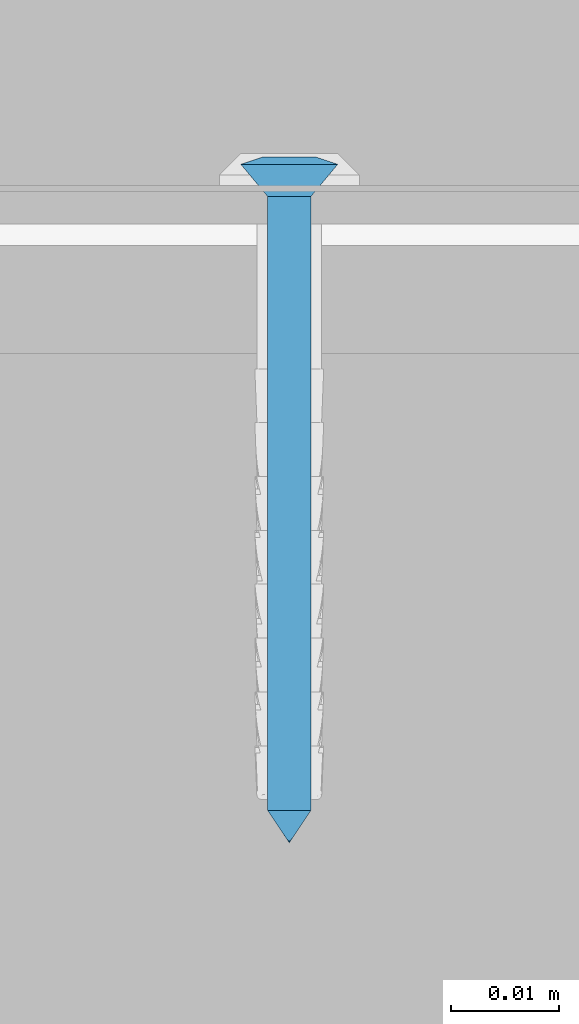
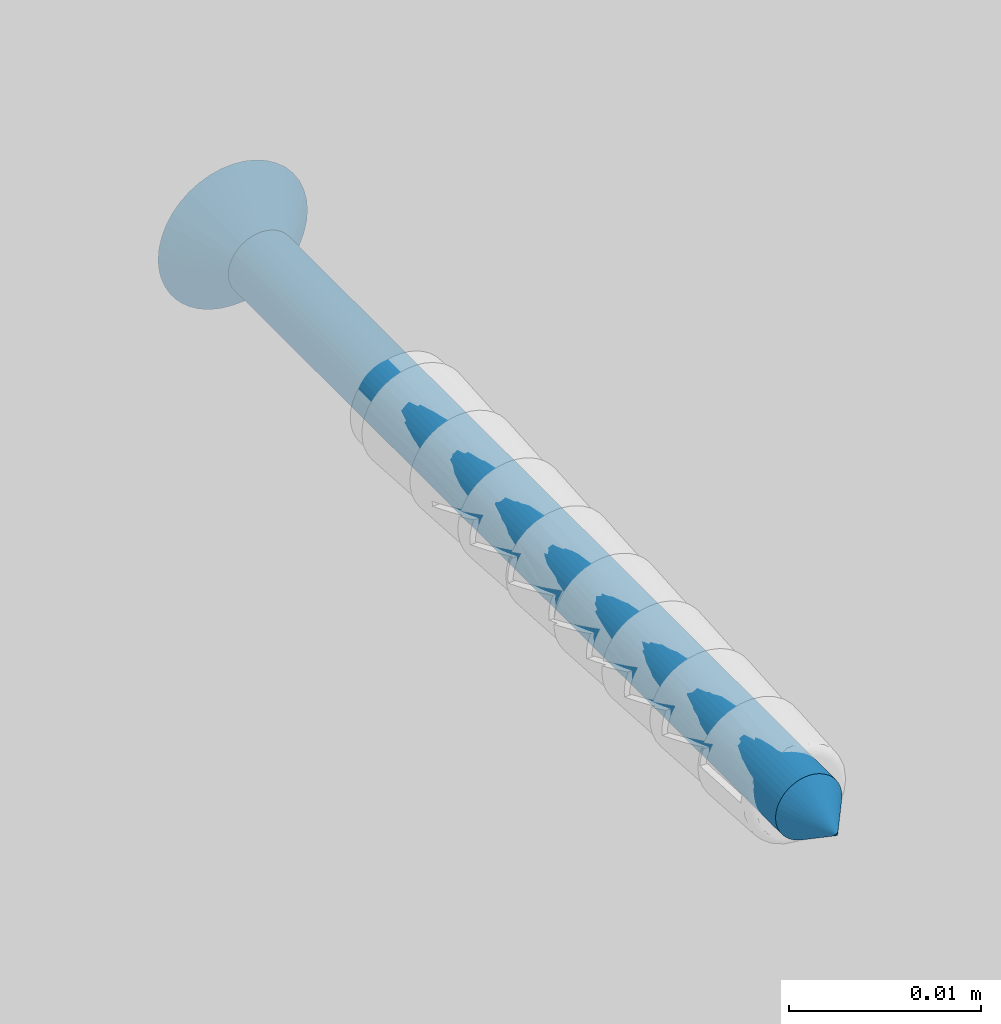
# One storey, part 20 of 92: 1 wall.
"""IFC2X3 building model written with IfcOpenShell, lengths in millimetres."""

from ifc_helpers import new_model, si_unit, frame, origin_with_axes, place, context, subcontext, project, spatial, faceted_brep, material, type_object, element, save


model = new_model("IFC2X3")

# Units and contexts
model_context = context("Model", 3, world=origin_with_axes())
body_context = subcontext(model_context, "Body", "Model", "MODEL_VIEW")
ifc_project = project(units=[si_unit("LENGTHUNIT", "METRE", prefix="MILLI"), si_unit("AREAUNIT", "SQUARE_METRE"), si_unit("VOLUMEUNIT", "CUBIC_METRE")], contexts=[model_context])

# Site, building, storey
site_placement = place(None, origin_with_axes())
site = spatial("IfcSite", under=ifc_project, at=site_placement, Name="Default Site", CompositionType="ELEMENT")
building_placement = place(site_placement, origin_with_axes())
building = spatial("IfcBuilding", under=site, at=building_placement, Name="Default Building", CompositionType="ELEMENT")
storey_placement = place(building_placement, origin_with_axes())
storey = spatial("IfcBuildingStorey", under=building, at=storey_placement, Name="Default Building Storey", CompositionType="ELEMENT", Elevation=0.0)

# Wall
ifc_material = material(Name="Default")
wall_type = type_object("IfcWallType", Name="Kołek rozporowy min. fi 6", PredefinedType="NOTDEFINED")
wall_placement = place(storey_placement, frame((3527.8498144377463, 118.01549176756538, 2546.231090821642), z_axis=(-1.89380159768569e-13, 1.0, 3.3306690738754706e-16), x_axis=(1.9030997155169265e-13, -3.3306690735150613e-16, 1.0)))
element("IfcWall", 1, at=wall_placement, inside=storey, type_object=wall_type, material=ifc_material, Name="Kołek rozporowy min. fi 6", context=body_context, shape_type="Brep", body=[
    faceted_brep([(-1438.2587671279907, -3452.579259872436, -0.46425670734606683), (-1435.7895851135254, -3452.970266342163, -3.464256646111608), (-1435.8141422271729, -3453.2833099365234, -3.464256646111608), (-1438.3141994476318, -3453.2833099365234, -0.46425670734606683), (-1438.093900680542, -3451.892614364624, -0.46425670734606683), (-1435.7162714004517, -3452.6650905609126, -3.464256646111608), (-1437.8236532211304, -3451.240301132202, -0.46425670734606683), (-1435.5961084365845, -3452.3751735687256, -3.464256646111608), (-1437.4547004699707, -3450.6382942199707, -0.46425670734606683), (-1435.4321956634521, -3452.107667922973, -3.464256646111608), (-1436.9961023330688, -3450.101137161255, -0.46425670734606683), (-1435.22834777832, -3451.8690109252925, -3.464256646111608), (-1436.4591836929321, -3449.642658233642, -0.46425670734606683), (-1434.9896907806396, -3451.665163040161, -3.464256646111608), (-1435.8570575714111, -3449.2735862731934, -0.46425670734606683), (-1434.7221851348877, -3451.501131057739, -3.464256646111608), (-1435.2047443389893, -3449.0034580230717, -0.46425670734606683), (-1434.4321489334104, -3451.381206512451, -3.464256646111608), (-1434.5180988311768, -3448.838710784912, -0.46425670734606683), (-1434.1269731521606, -3451.307773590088, -3.464256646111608), (-1433.8141679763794, -3448.7831592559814, -0.46425670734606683), (-1433.8141679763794, -3451.28321647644, -3.464256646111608), (-1433.110237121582, -3448.838710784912, -0.46425670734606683), (-1433.5012435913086, -3451.307773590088, -3.464256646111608), (-1432.4235916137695, -3449.0034580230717, -0.46425670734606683), (-1433.1960678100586, -3451.381206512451, -3.464256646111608), (-1431.771159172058, -3449.2735862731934, -0.46425670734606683), (-1432.9061508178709, -3451.501131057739, -3.464256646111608), (-1431.1691522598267, -3449.642658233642, -0.46425670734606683), (-1432.6385259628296, -3451.665163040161, -3.464256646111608), (-1430.6321144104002, -3450.101137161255, -0.46425670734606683), (-1432.3999881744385, -3451.8690109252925, -3.464256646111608), (-1430.1735162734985, -3450.6382942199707, -0.46425670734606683), (-1432.1961402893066, -3452.107667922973, -3.464256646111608), (-1429.8045635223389, -3451.240301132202, -0.46425670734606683), (-1432.0321083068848, -3452.3751735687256, -3.464256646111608), (-1429.5344352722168, -3451.892614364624, -0.46425670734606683), (-1431.9120645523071, -3452.6650905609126, -3.464256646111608), (-1431.814193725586, -3453.2833099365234, -3.464256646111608), (-1429.314136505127, -3453.2833099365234, -0.46425670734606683), (-1429.369568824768, -3453.9871215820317, -0.46425670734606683), (-1431.8387508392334, -3453.5961151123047, -3.464256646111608), (-1431.8387508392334, -3452.970266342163, -3.464256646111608), (-1429.369568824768, -3452.579259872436, -0.46425670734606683), (-1429.5344352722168, -3454.6737670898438, -0.46425670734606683), (-1431.9120645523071, -3453.9012908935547, -3.464256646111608), (-1429.8045635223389, -3455.3260803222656, -0.46425670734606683), (-1432.0321083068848, -3454.191207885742, -3.464256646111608), (-1430.1735162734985, -3455.9283256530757, -0.46425670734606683), (-1432.1961402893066, -3454.458713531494, -3.464256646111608), (-1430.6321144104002, -3456.465244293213, -0.46425670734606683), (-1432.3999881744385, -3454.6973705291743, -3.464256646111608), (-1431.1691522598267, -3456.923723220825, -0.46425670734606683), (-1432.6385259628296, -3454.9012184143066, -3.464256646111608), (-1431.771159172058, -3457.2927951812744, -0.46425670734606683), (-1432.9061508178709, -3455.065250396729, -3.464256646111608), (-1432.4235916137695, -3457.562923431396, -0.46425670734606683), (-1433.1960678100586, -3455.1854133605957, -3.464256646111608), (-1433.110237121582, -3457.7279090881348, -0.46425670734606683), (-1433.5012435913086, -3455.25860786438, -3.464256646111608), (-1433.8141679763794, -3457.7832221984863, -0.46425670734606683), (-1433.8141679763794, -3455.283164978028, -3.464256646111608), (-1434.1269731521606, -3455.25860786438, -3.464256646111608), (-1434.3430995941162, -3457.7519893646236, -0.46425670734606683), (-1434.4321489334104, -3455.1854133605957, -3.464256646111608), (-1434.8646402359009, -3457.6590061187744, -0.46425670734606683), (-1435.3716373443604, -3457.504987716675, -0.46425670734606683), (-1434.7221851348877, -3455.065250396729, -3.464256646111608), (-1435.8570575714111, -3457.2927951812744, -0.46425670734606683), (-1436.3142251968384, -3457.024812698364, -0.46425670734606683), (-1435.22834777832, -3454.6973705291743, -3.464256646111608), (-1434.9896907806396, -3454.9012184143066, -3.464256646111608), (-1436.7367029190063, -3456.705093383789, -0.46425670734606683), (-1437.118649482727, -3456.337928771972, -0.46425670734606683), (-1435.4321956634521, -3454.458713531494, -3.464256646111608), (-1437.4547004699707, -3455.9283256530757, -0.46425670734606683), (-1437.8236532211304, -3455.3260803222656, -0.46425670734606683), (-1435.5961084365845, -3454.191207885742, -3.464256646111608), (-1438.093900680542, -3454.6737670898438, -0.46425670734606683), (-1435.7162714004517, -3453.9012908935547, -3.464256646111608), (-1438.2587671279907, -3453.9871215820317, -0.46425670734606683), (-1435.7895851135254, -3453.5961151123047, -3.464256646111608), (-1433.8141679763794, -3455.7831287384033, 0.20073754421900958), (-1434.2052936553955, -3455.752372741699, 0.20073754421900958), (-1434.5866441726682, -3455.6608200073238, 0.20073754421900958), (-1434.9491596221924, -3455.510854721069, 0.20073754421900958), (-1435.2836608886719, -3455.305814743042, 0.20073754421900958), (-1435.581922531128, -3455.0509452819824, 0.20073754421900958), (-1435.836672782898, -3454.7526836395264, 0.20073754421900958), (-1436.0417127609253, -3454.418182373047, 0.20073754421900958), (-1436.1917972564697, -3454.0557861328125, 0.20073754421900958), (-1436.2833499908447, -3453.6743164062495, 0.20073754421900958), (-1436.3141059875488, -3453.2833099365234, 0.20073754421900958), (-1436.2833499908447, -3452.8920650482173, 0.20073754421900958), (-1436.1917972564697, -3452.5105953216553, 0.20073754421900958), (-1436.0417127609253, -3452.148199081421, 0.20073754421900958), (-1435.836672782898, -3451.8136978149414, 0.20073754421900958), (-1435.581922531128, -3451.5154361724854, 0.20073754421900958), (-1435.2836608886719, -3451.260566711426, 0.20073754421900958), (-1434.9491596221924, -3451.0557651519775, 0.20073754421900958), (-1434.5866441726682, -3450.905561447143, 0.20073754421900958), (-1433.8141679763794, -3450.7832527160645, 0.20073754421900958), (-1433.4230422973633, -3450.8140087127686, 0.20073754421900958), (-1434.2052936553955, -3450.8140087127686, 0.20073754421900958), (-1433.0415725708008, -3450.905561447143, 0.20073754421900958), (-1432.6791763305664, -3451.0557651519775, 0.20073754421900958), (-1432.344675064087, -3451.260566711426, 0.20073754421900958), (-1432.0464134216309, -3451.5154361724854, 0.20073754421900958), (-1431.7916631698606, -3451.8136978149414, 0.20073754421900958), (-1431.5866231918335, -3452.148199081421, 0.20073754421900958), (-1431.436538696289, -3452.5105953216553, 0.20073754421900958), (-1431.344985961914, -3452.8920650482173, 0.20073754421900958), (-1431.3141107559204, -3453.2833099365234, 0.20073754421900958), (-1431.344985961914, -3453.6743164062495, 0.20073754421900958), (-1431.436538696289, -3454.0557861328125, 0.20073754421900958), (-1431.5866231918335, -3454.418182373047, 0.20073754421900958), (-1431.7916631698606, -3454.7526836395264, 0.20073754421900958), (-1432.0464134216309, -3455.0509452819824, 0.20073754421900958), (-1432.344675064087, -3455.305814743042, 0.20073754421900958), (-1432.6791763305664, -3455.510854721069, 0.20073754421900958), (-1433.0415725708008, -3455.6608200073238, 0.20073754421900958), (-1433.4230422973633, -3455.752372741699, 0.20073754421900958), (-1435.8141422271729, -3453.2833099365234, -60.464255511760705), (-1435.7895851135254, -3452.970266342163, -60.464255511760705), (-1433.8141679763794, -3453.2833099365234, -63.46425414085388), (-1435.7162714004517, -3452.6650905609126, -60.464255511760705), (-1435.5961084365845, -3452.3751735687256, -60.464255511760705), (-1435.4321956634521, -3452.107667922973, -60.464255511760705), (-1435.22834777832, -3451.8690109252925, -60.464255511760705), (-1434.9896907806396, -3451.665163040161, -60.464255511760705), (-1434.7221851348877, -3451.501131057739, -60.464255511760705), (-1434.4321489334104, -3451.381206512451, -60.464255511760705), (-1434.1269731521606, -3451.307773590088, -60.464255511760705), (-1433.8141679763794, -3451.28321647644, -60.464255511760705), (-1433.5012435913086, -3451.307773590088, -60.464255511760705), (-1433.1960678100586, -3451.381206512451, -60.464255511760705), (-1432.9061508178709, -3451.501131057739, -60.464255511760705), (-1432.6385259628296, -3451.665163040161, -60.464255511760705), (-1432.3999881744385, -3451.8690109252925, -60.464255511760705), (-1432.1961402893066, -3452.107667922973, -60.464255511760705), (-1432.0321083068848, -3452.3751735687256, -60.464255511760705), (-1431.9120645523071, -3452.6650905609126, -60.464255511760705), (-1431.8387508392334, -3452.970266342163, -60.464255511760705), (-1431.814193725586, -3453.2833099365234, -60.464255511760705), (-1431.8387508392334, -3453.5961151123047, -60.464255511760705), (-1431.9120645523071, -3453.9012908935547, -60.464255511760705), (-1432.0321083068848, -3454.191207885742, -60.464255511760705), (-1432.1961402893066, -3454.458713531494, -60.464255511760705), (-1432.3999881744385, -3454.6973705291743, -60.464255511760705), (-1432.6385259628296, -3454.9012184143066, -60.464255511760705), (-1432.9061508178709, -3455.065250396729, -60.464255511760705), (-1433.1960678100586, -3455.1854133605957, -60.464255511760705), (-1433.5012435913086, -3455.25860786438, -60.464255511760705), (-1433.8141679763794, -3455.283164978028, -60.464255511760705), (-1434.1269731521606, -3455.25860786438, -60.464255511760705), (-1434.4321489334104, -3455.1854133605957, -60.464255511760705), (-1434.7221851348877, -3455.065250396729, -60.464255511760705), (-1434.9896907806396, -3454.9012184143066, -60.464255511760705), (-1435.22834777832, -3454.6973705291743, -60.464255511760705), (-1435.4321956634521, -3454.458713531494, -60.464255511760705), (-1435.5961084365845, -3454.191207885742, -60.464255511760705), (-1435.7162714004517, -3453.9012908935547, -60.464255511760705), (-1435.7895851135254, -3453.5961151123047, -60.464255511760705), (-1436.1917972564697, -3454.0557861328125, 0.049999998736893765), (-1436.0417127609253, -3454.418182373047, 0.049999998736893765), (-1435.836672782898, -3454.7526836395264, 0.049999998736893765), (-1435.581922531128, -3455.0509452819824, 0.049999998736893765), (-1435.2836608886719, -3455.305814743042, 0.049999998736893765), (-1434.9491596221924, -3455.510854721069, 0.049999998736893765), (-1434.5866441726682, -3455.6608200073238, 0.049999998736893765), (-1434.2052936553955, -3455.752372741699, 0.049999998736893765), (-1433.8141679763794, -3455.7831287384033, 0.049999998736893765), (-1433.4230422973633, -3455.752372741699, 0.049999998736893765), (-1433.0415725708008, -3455.6608200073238, 0.049999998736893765), (-1432.6791763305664, -3455.510854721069, 0.049999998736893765), (-1432.344675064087, -3455.305814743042, 0.049999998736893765), (-1432.0464134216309, -3455.0509452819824, 0.049999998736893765), (-1431.7916631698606, -3454.7526836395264, 0.049999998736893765), (-1431.5866231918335, -3454.418182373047, 0.049999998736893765), (-1431.436538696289, -3454.0557861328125, 0.049999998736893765), (-1431.344985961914, -3453.6743164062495, 0.049999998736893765), (-1431.3141107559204, -3453.2833099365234, 0.049999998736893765), (-1431.344985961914, -3452.8920650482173, 0.049999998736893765), (-1431.436538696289, -3452.5105953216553, 0.049999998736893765), (-1431.5866231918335, -3452.148199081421, 0.049999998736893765), (-1431.7916631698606, -3451.8136978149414, 0.049999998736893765), (-1432.0464134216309, -3451.5154361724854, 0.049999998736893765), (-1432.344675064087, -3451.260566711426, 0.049999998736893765), (-1432.6791763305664, -3451.0557651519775, 0.049999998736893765), (-1433.0415725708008, -3450.905561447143, 0.049999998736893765), (-1433.4230422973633, -3450.8140087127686, 0.049999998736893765), (-1433.8141679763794, -3450.7832527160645, 0.049999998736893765), (-1434.2052936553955, -3450.8140087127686, 0.049999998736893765), (-1434.5866441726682, -3450.905561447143, 0.049999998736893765), (-1434.9491596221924, -3451.0557651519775, 0.049999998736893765), (-1435.2836608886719, -3451.260566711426, 0.049999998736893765), (-1435.581922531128, -3451.5154361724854, 0.049999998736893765), (-1435.836672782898, -3451.8136978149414, 0.049999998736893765), (-1436.0417127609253, -3452.148199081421, 0.049999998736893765), (-1436.1917972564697, -3452.5105953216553, 0.049999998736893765), (-1436.2833499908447, -3452.8920650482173, 0.049999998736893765), (-1436.3141059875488, -3453.2833099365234, 0.049999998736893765), (-1436.2833499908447, -3453.6743164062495, 0.049999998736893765), (-1434.3141317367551, -3453.7832736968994, 0.049999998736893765), (-1435.8141422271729, -3453.7832736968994, 0.049999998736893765), (-1435.8141422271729, -3452.7831077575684, 0.049999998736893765), (-1434.3141317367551, -3452.7831077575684, 0.049999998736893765), (-1434.3141317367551, -3451.28321647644, 0.049999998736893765), (-1433.3142042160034, -3451.28321647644, 0.049999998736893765), (-1433.3142042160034, -3452.7831077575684, 0.049999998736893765), (-1431.814193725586, -3452.7831077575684, 0.049999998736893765), (-1431.814193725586, -3453.7832736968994, 0.049999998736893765), (-1433.3142042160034, -3453.7832736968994, 0.049999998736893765), (-1433.3142042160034, -3455.283164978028, 0.049999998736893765), (-1434.3141317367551, -3455.283164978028, 0.049999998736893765), (-1435.8141422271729, -3452.7831077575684, -1.799262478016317), (-1435.8141422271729, -3453.7832736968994, -1.799262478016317), (-1434.3141317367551, -3453.7832736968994, -1.799262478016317), (-1434.3141317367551, -3455.283164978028, -1.799262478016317), (-1433.3142042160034, -3455.283164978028, -1.799262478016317), (-1433.3142042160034, -3453.7832736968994, -1.799262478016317), (-1431.814193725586, -3453.7832736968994, -1.799262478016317), (-1431.814193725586, -3452.7831077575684, -1.799262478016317), (-1433.3142042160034, -3452.7831077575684, -1.799262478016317), (-1433.3142042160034, -3451.28321647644, -1.799262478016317), (-1434.3141317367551, -3451.28321647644, -1.799262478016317), (-1434.3141317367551, -3452.7831077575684, -1.799262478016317)], [[[0, 1, 2, 3]], [[1, 0, 4, 5]], [[5, 4, 6, 7]], [[8, 9, 7, 6]], [[9, 8, 10, 11]], [[12, 13, 11, 10]], [[13, 12, 14, 15]], [[15, 14, 16, 17]], [[18, 19, 17, 16]], [[19, 18, 20, 21]], [[22, 23, 21, 20]], [[23, 22, 24, 25]], [[25, 24, 26, 27]], [[28, 29, 27, 26]], [[29, 28, 30, 31]], [[32, 33, 31, 30]], [[33, 32, 34, 35]], [[35, 34, 36, 37]], [[38, 39, 40, 41]], [[42, 43, 39, 38]], [[43, 42, 37, 36]], [[41, 40, 44, 45]], [[45, 44, 46, 47]], [[48, 49, 47, 46]], [[49, 48, 50, 51]], [[52, 53, 51, 50]], [[53, 52, 54, 55]], [[55, 54, 56, 57]], [[58, 59, 57, 56]], [[59, 58, 60, 61]], [[62, 60, 63]], [[62, 61, 60]], [[63, 64, 62]], [[63, 65, 64]], [[64, 65, 66]], [[66, 67, 64]], [[66, 68, 67]], [[69, 70, 71]], [[69, 72, 70]], [[71, 68, 69]], [[71, 67, 68]], [[72, 73, 70]], [[74, 73, 75]], [[74, 70, 73]], [[74, 75, 76, 77]], [[77, 76, 78, 79]], [[80, 81, 79, 78]], [[81, 80, 3, 2]], [[63, 82, 83]], [[63, 60, 82]], [[83, 65, 63]], [[83, 84, 65]], [[84, 68, 66]], [[84, 85, 68]], [[66, 65, 84]], [[69, 85, 86]], [[69, 68, 85]], [[87, 73, 72]], [[72, 86, 87]], [[72, 69, 86]], [[75, 87, 88]], [[75, 73, 87]], [[75, 88, 89, 76]], [[76, 89, 90, 78]], [[91, 80, 78, 90]], [[80, 91, 92, 3]], [[93, 0, 3, 92]], [[0, 93, 94, 4]], [[4, 94, 95, 6]], [[96, 8, 6, 95]], [[8, 96, 97, 10]], [[98, 12, 10, 97]], [[12, 98, 99, 14]], [[14, 99, 100, 16]], [[20, 101, 102, 22]], [[18, 103, 101, 20]], [[103, 18, 16, 100]], [[22, 102, 104, 24]], [[24, 104, 105, 26]], [[106, 28, 26, 105]], [[28, 106, 107, 30]], [[108, 32, 30, 107]], [[32, 108, 109, 34]], [[34, 109, 110, 36]], [[111, 43, 36, 110]], [[43, 111, 112, 39]], [[113, 40, 39, 112]], [[40, 113, 114, 44]], [[44, 114, 115, 46]], [[116, 48, 46, 115]], [[48, 116, 117, 50]], [[118, 52, 50, 117]], [[52, 118, 119, 54]], [[54, 119, 120, 56]], [[121, 58, 56, 120]], [[58, 121, 82, 60]], [[122, 123, 124]], [[123, 125, 124]], [[125, 126, 124]], [[124, 126, 127]], [[127, 128, 124]], [[124, 128, 129]], [[129, 130, 124]], [[130, 131, 124]], [[124, 131, 132]], [[132, 133, 124]], [[124, 133, 134]], [[134, 135, 124]], [[135, 136, 124]], [[124, 136, 137]], [[137, 138, 124]], [[124, 138, 139]], [[139, 140, 124]], [[140, 141, 124]], [[124, 141, 142]], [[142, 143, 124]], [[124, 143, 144]], [[144, 145, 124]], [[145, 146, 124]], [[124, 146, 147]], [[147, 148, 124]], [[124, 148, 149]], [[149, 150, 124]], [[150, 151, 124]], [[124, 151, 152]], [[152, 153, 124]], [[124, 153, 154]], [[154, 155, 124]], [[155, 156, 124]], [[124, 156, 157]], [[157, 158, 124]], [[124, 158, 159]], [[159, 160, 124]], [[160, 161, 124]], [[124, 161, 162]], [[124, 162, 122]], [[1, 123, 122, 2]], [[123, 1, 5, 125]], [[125, 5, 7, 126]], [[9, 127, 126, 7]], [[127, 9, 11, 128]], [[13, 129, 128, 11]], [[129, 13, 15, 130]], [[130, 15, 17, 131]], [[19, 132, 131, 17]], [[132, 19, 21, 133]], [[23, 134, 133, 21]], [[134, 23, 25, 135]], [[135, 25, 27, 136]], [[29, 137, 136, 27]], [[137, 29, 31, 138]], [[33, 139, 138, 31]], [[139, 33, 35, 140]], [[140, 35, 37, 141]], [[143, 38, 41, 144]], [[142, 42, 38, 143]], [[42, 142, 141, 37]], [[144, 41, 45, 145]], [[145, 45, 47, 146]], [[49, 147, 146, 47]], [[147, 49, 51, 148]], [[53, 149, 148, 51]], [[149, 53, 55, 150]], [[150, 55, 57, 151]], [[59, 152, 151, 57]], [[152, 59, 61, 153]], [[62, 154, 153, 61]], [[154, 62, 64, 155]], [[155, 64, 67, 156]], [[71, 157, 156, 67]], [[157, 71, 70, 158]], [[74, 159, 158, 70]], [[159, 74, 77, 160]], [[160, 77, 79, 161]], [[81, 162, 161, 79]], [[162, 81, 2, 122]], [[163, 164, 165, 166, 167, 168, 169, 170, 171, 172, 173, 174, 175, 176, 177, 178, 179, 180, 181, 182, 183, 184, 185, 186, 187, 188, 189, 190, 191, 192, 193, 194, 195, 196, 197, 198, 199, 200, 201, 202], [203, 204, 205, 206, 207, 208, 209, 210, 211, 212, 213, 214]], [[113, 112, 181, 180]], [[180, 179, 114, 113]], [[179, 178, 115, 114]], [[116, 115, 178, 177]], [[177, 176, 117, 116]], [[118, 117, 176, 175]], [[175, 174, 119, 118]], [[174, 173, 120, 119]], [[121, 120, 173, 172]], [[172, 171, 82, 121]], [[83, 82, 171, 170]], [[170, 169, 84, 83]], [[169, 168, 85, 84]], [[86, 85, 168, 167]], [[167, 166, 87, 86]], [[88, 87, 166, 165]], [[165, 164, 89, 88]], [[164, 163, 90, 89]], [[201, 200, 93, 92]], [[202, 201, 92, 91]], [[91, 90, 163, 202]], [[200, 199, 94, 93]], [[199, 198, 95, 94]], [[96, 95, 198, 197]], [[197, 196, 97, 96]], [[98, 97, 196, 195]], [[195, 194, 99, 98]], [[194, 193, 100, 99]], [[103, 100, 193, 192]], [[192, 191, 101, 103]], [[102, 101, 191, 190]], [[190, 189, 104, 102]], [[189, 188, 105, 104]], [[106, 105, 188, 187]], [[187, 186, 107, 106]], [[108, 107, 186, 185]], [[185, 184, 109, 108]], [[184, 183, 110, 109]], [[111, 110, 183, 182]], [[182, 181, 112, 111]], [[215, 216, 217, 218, 219, 220, 221, 222, 223, 224, 225, 226]], [[224, 208, 207, 225]], [[225, 207, 206, 226]], [[226, 206, 205, 215]], [[215, 205, 204, 216]], [[216, 204, 203, 217]], [[217, 203, 214, 218]], [[218, 214, 213, 219]], [[219, 213, 212, 220]], [[220, 212, 211, 221]], [[221, 211, 210, 222]], [[222, 210, 209, 223]], [[223, 209, 208, 224]]]),
])

save(model, "model.ifc")
